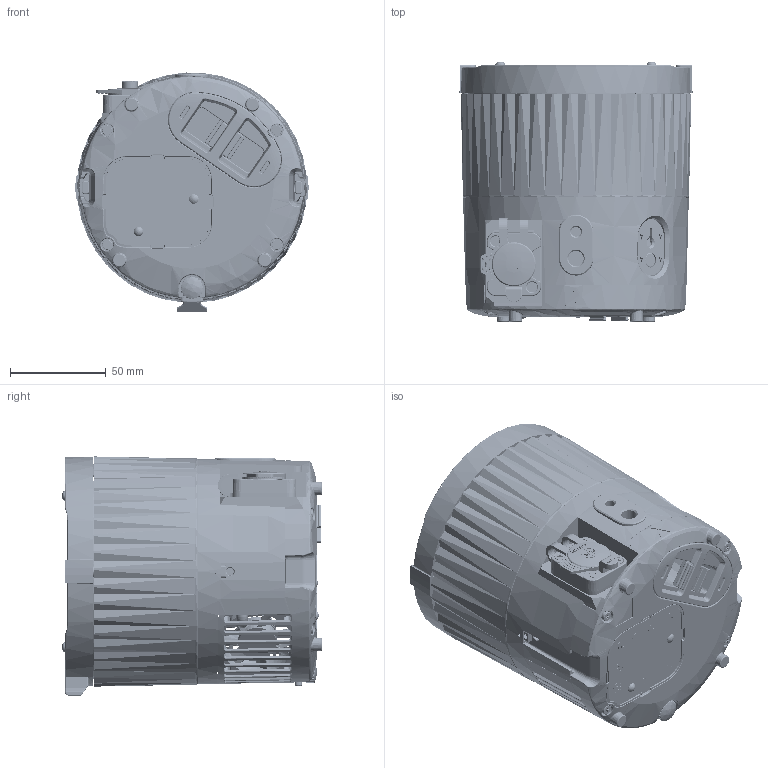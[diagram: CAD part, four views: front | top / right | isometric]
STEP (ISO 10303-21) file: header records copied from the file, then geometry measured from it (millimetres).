
FILE_DESCRIPTION (( 'STEP AP214' ), '1' );
FILE_NAME ('0.Phobos-assem.STEP', '2025-09-25T06:20:50', ( '' ), ( '' ), 'SwSTEP 2.0', 'SolidWorks 2016', '' );
FILE_SCHEMA (( 'AUTOMOTIVE_DESIGN' ));
Length unit declared in the file: millimetre
Products named in the file (41): 0.Phobos-assem; 27952-Screw-KM3X5; 37929-Spring D3.4XH10; 33167-RRE8F-Z-019; 37927-Adjust tube outer shell; 1.Battery pack-assem; 38224-Spring-3.5X10x0.5; 37933-Silicone brake; 37901-Fan RS4010B12M_Simulation; 37916-Spring-D6XH48; 38075-Torx combination screw-M3X8; 37456-Fresnel lens-80mm; 37911-Battery door-lock; 37930-Cover plate; 37918-Snap ring-E 2.0; 16474-AX5-holder; 37934-Fix sheet; 35610-Feet pad V2; 37919-Captive screw-M3; 37906-Battery door-cover; 1.Back housing-assem; 37925-Push button; 37999-Set screws-2.5X6; 37938-Button lock; 37931-Back housing; 37928-Tilt knob; 37451-Heatsink; 37936-Nut-M2.5; 38179-Spring pin; 37146-Screw-KM3X14; 37907-Safety cover; 32903-PM2.5X5; 37935-Block plate; 37926-Screw M4x35; 37450-Middle housing; 37937-Front ring; 34711-spring D3XH7X0.4XP1; 1.Front ring-assem; 37903-Safety button; 1.Middle housing-assem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
Assembly tree (62 placements, depth 3):
  0.Phobos-assem
    1.Middle housing-assem
      37450-Middle housing
      37903-Safety button
      37907-Safety cover
      27952-Screw-KM3X5  x4
      33167-RRE8F-Z-019
      37146-Screw-KM3X14  x2
      37927-Adjust tube outer shell
      37456-Fresnel lens-80mm
      37930-Cover plate
      37901-Fan RS4010B12M_Simulation
      37939-Keyfoil-Phobos
      37451-Heatsink
      38179-Spring pin  x2
      37999-Set screws-2.5X6  x2
    1.Front ring-assem
      37937-Front ring
      16474-AX5-holder
      34711-spring D3XH7X0.4XP1
      37934-Fix sheet
      37935-Block plate
      32903-PM2.5X5  x3
      35610-Feet pad V2  x4
      37936-Nut-M2.5
      37938-Button lock
      37933-Silicone brake  x2
      38224-Spring-3.5X10x0.5
    1.Back housing-assem
      37931-Back housing
      37919-Captive screw-M3  x4
      37925-Push button
      37926-Screw M4x35
      37928-Tilt knob
      37929-Spring D3.4XH10
      37916-Spring-D6XH48
      37918-Snap ring-E 2.0  x4
    38075-Torx combination screw-M3X8  x4
    1.Battery pack-assem
      37906-Battery door-cover
      37911-Battery door-lock  x2
Bounding box: 121.96 x 135.8 x 125.13 mm (x, y, z)
Volume: 346548.2 mm3; surface area: 320730.4 mm2
Topology: 61 solids, 66 shells, 9448 faces, 24502 edges, 15244 vertices
Faces by surface type: plane 3071, cylinder 2461, bspline 1503, cone 1364, torus 789, sphere 260
Entity records: 391170 total; most frequent: CARTESIAN_POINT 155108, ORIENTED_EDGE 43482, DIRECTION 36240, EDGE_CURVE 21741, AXIS2_PLACEMENT_3D 13911, VERTEX_POINT 13605, EDGE_LOOP 8834, VECTOR 8418
